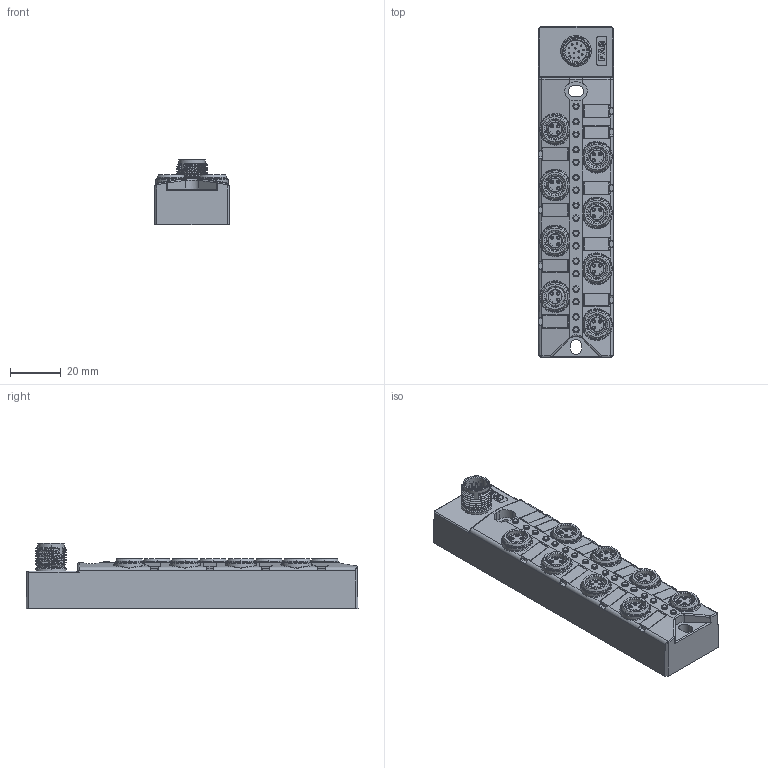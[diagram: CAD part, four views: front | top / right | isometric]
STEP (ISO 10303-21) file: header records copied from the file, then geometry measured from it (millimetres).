
FILE_DESCRIPTION (( 'STEP AP203' ), '1' );
FILE_NAME ('23P8S1(23N8S1).STEP', '2020-05-14T07:01:10', ( '' ), ( '' ), 'SwSTEP 2.0', 'SolidWorks 2016', '' );
FILE_SCHEMA (( 'CONFIG_CONTROL_DESIGN' ));
Products named in the file (1): 23P8S1(23N8S1)
Bounding box: 29.94 x 130.94 x 25.75 mm (x, y, z)
Volume: 57493.2 mm3; surface area: 24583.8 mm2
Topology: 1 solids, 1 shells, 2992 faces, 8793 edges, 5893 vertices
Faces by surface type: plane 942, cylinder 858, cone 661, bspline 531
Entity records: 166670 total; most frequent: CARTESIAN_POINT 97423, ORIENTED_EDGE 17558, DIRECTION 10224, EDGE_CURVE 8779, VERTEX_POINT 5893, B_SPLINE_CURVE_WITH_KNOTS 4195, AXIS2_PLACEMENT_3D 3701, EDGE_LOOP 3164
